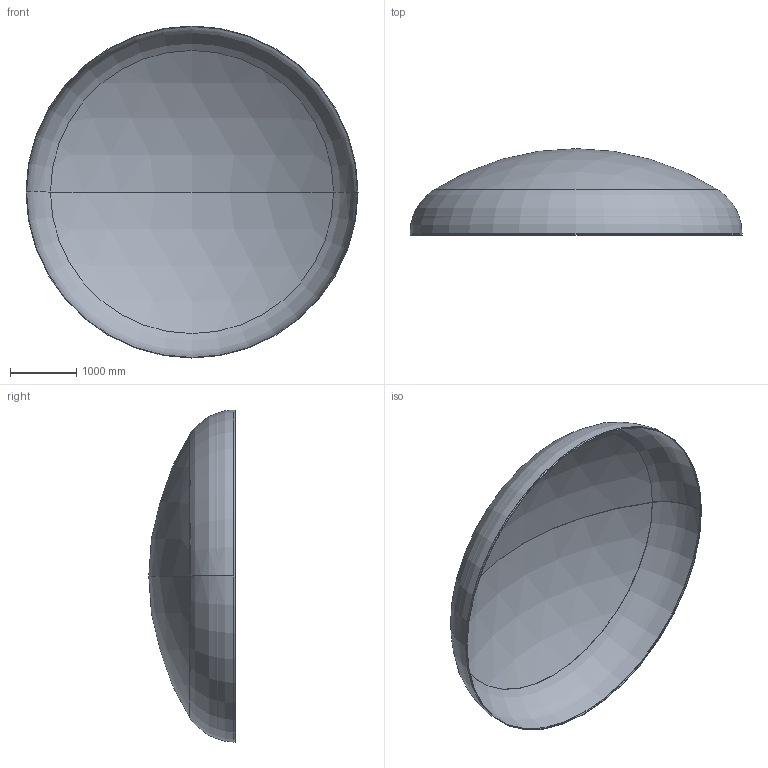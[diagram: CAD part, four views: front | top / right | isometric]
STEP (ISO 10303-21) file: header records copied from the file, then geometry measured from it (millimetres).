
FILE_DESCRIPTION (( 'STEP AP203' ), '1' );
FILE_NAME ('DIN 28013 Korbbogenform_-_Boden DIN 28013 - 5000 x 25 - I - s=8.step', '2016-07-02T00:02:14', ( '' ), ( '' ), 'SwSTEP 2.0', 'SolidWorks 2013', '' );
FILE_SCHEMA (( 'CONFIG_CONTROL_DESIGN' ));
Length unit declared in the file: millimetre
Products named in the file (1): DIN 28013 Korbbogenform_-_Boden DIN 28013 - 5000 x 25 - I - s=8
Bounding box: 5000 x 1300.31 x 5000 mm (x, y, z)
Volume: 220251776.9 mm3; surface area: 55188518 mm2
Topology: 1 solids, 1 shells, 13 faces, 24 edges, 14 vertices
Faces by surface type: torus 4, cylinder 4, sphere 4, plane 1
Entity records: 407 total; most frequent: DIRECTION 72, CARTESIAN_POINT 52, ORIENTED_EDGE 48, AXIS2_PLACEMENT_3D 34, EDGE_CURVE 24, CIRCLE 20, EDGE_LOOP 14, VERTEX_POINT 14
